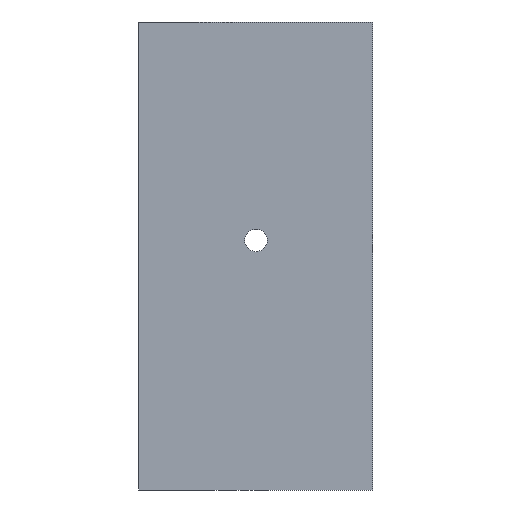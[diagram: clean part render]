
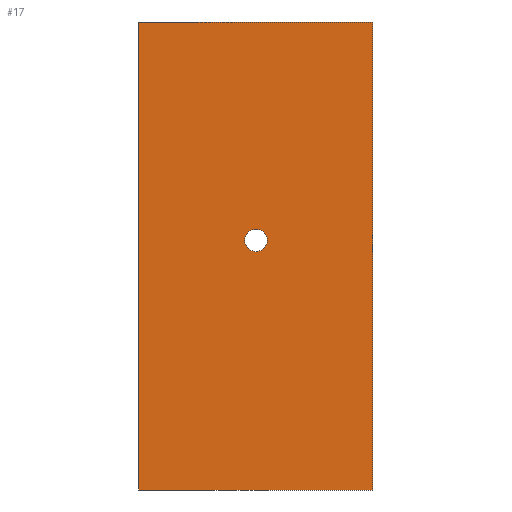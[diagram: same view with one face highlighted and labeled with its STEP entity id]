
A CAD part, left-side view. The second image highlights one B-rep face of the part: STEP entity #17.
In plain terms, the highlighted planar face has unit normal (-1, 0, 0).
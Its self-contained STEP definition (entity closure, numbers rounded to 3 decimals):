
#17 = ADVANCED_FACE('',(#18,#137),#32,.F.);
#18 = FACE_BOUND('',#19,.F.);
#19 = EDGE_LOOP('',(#20,#55,#83,#111));
#20 = ORIENTED_EDGE('',*,*,#21,.F.);
#21 = EDGE_CURVE('',#22,#24,#26,.T.);
#22 = VERTEX_POINT('',#23);
#23 = CARTESIAN_POINT('',(0.,-22.5,0.));
#24 = VERTEX_POINT('',#25);
#25 = CARTESIAN_POINT('',(0.,-22.5,90.));
#26 = SURFACE_CURVE('',#27,(#31,#43),.PCURVE_S1.);
#27 = LINE('',#28,#29);
#28 = CARTESIAN_POINT('',(0.,-22.5,0.));
#29 = VECTOR('',#30,1.);
#30 = DIRECTION('',(0.,0.,1.));
#31 = PCURVE('',#32,#37);
#32 = PLANE('',#33);
#33 = AXIS2_PLACEMENT_3D('',#34,#35,#36);
#34 = CARTESIAN_POINT('',(0.,-22.5,0.));
#35 = DIRECTION('',(1.,0.,0.));
#36 = DIRECTION('',(0.,0.,1.));
#37 = DEFINITIONAL_REPRESENTATION('',(#38),#42);
#38 = LINE('',#39,#40);
#39 = CARTESIAN_POINT('',(0.,0.));
#40 = VECTOR('',#41,1.);
#41 = DIRECTION('',(1.,0.));
#42 = ( GEOMETRIC_REPRESENTATION_CONTEXT(2) 
PARAMETRIC_REPRESENTATION_CONTEXT() REPRESENTATION_CONTEXT('2D SPACE',''
  ) );
#43 = PCURVE('',#44,#49);
#44 = PLANE('',#45);
#45 = AXIS2_PLACEMENT_3D('',#46,#47,#48);
#46 = CARTESIAN_POINT('',(0.,-22.5,0.));
#47 = DIRECTION('',(0.,1.,0.));
#48 = DIRECTION('',(0.,0.,1.));
#49 = DEFINITIONAL_REPRESENTATION('',(#50),#54);
#50 = LINE('',#51,#52);
#51 = CARTESIAN_POINT('',(0.,0.));
#52 = VECTOR('',#53,1.);
#53 = DIRECTION('',(1.,0.));
#54 = ( GEOMETRIC_REPRESENTATION_CONTEXT(2) 
PARAMETRIC_REPRESENTATION_CONTEXT() REPRESENTATION_CONTEXT('2D SPACE',''
  ) );
#55 = ORIENTED_EDGE('',*,*,#56,.T.);
#56 = EDGE_CURVE('',#22,#57,#59,.T.);
#57 = VERTEX_POINT('',#58);
#58 = CARTESIAN_POINT('',(0.,22.5,0.));
#59 = SURFACE_CURVE('',#60,(#64,#71),.PCURVE_S1.);
#60 = LINE('',#61,#62);
#61 = CARTESIAN_POINT('',(0.,-22.5,0.));
#62 = VECTOR('',#63,1.);
#63 = DIRECTION('',(0.,1.,0.));
#64 = PCURVE('',#32,#65);
#65 = DEFINITIONAL_REPRESENTATION('',(#66),#70);
#66 = LINE('',#67,#68);
#67 = CARTESIAN_POINT('',(0.,0.));
#68 = VECTOR('',#69,1.);
#69 = DIRECTION('',(0.,-1.));
#70 = ( GEOMETRIC_REPRESENTATION_CONTEXT(2) 
PARAMETRIC_REPRESENTATION_CONTEXT() REPRESENTATION_CONTEXT('2D SPACE',''
  ) );
#71 = PCURVE('',#72,#77);
#72 = PLANE('',#73);
#73 = AXIS2_PLACEMENT_3D('',#74,#75,#76);
#74 = CARTESIAN_POINT('',(0.,-22.5,0.));
#75 = DIRECTION('',(0.,0.,1.));
#76 = DIRECTION('',(1.,0.,0.));
#77 = DEFINITIONAL_REPRESENTATION('',(#78),#82);
#78 = LINE('',#79,#80);
#79 = CARTESIAN_POINT('',(0.,0.));
#80 = VECTOR('',#81,1.);
#81 = DIRECTION('',(0.,1.));
#82 = ( GEOMETRIC_REPRESENTATION_CONTEXT(2) 
PARAMETRIC_REPRESENTATION_CONTEXT() REPRESENTATION_CONTEXT('2D SPACE',''
  ) );
#83 = ORIENTED_EDGE('',*,*,#84,.F.);
#84 = EDGE_CURVE('',#85,#57,#87,.T.);
#85 = VERTEX_POINT('',#86);
#86 = CARTESIAN_POINT('',(0.,22.5,90.));
#87 = SURFACE_CURVE('',#88,(#92,#99),.PCURVE_S1.);
#88 = LINE('',#89,#90);
#89 = CARTESIAN_POINT('',(0.,22.5,90.));
#90 = VECTOR('',#91,1.);
#91 = DIRECTION('',(0.,0.,-1.));
#92 = PCURVE('',#32,#93);
#93 = DEFINITIONAL_REPRESENTATION('',(#94),#98);
#94 = LINE('',#95,#96);
#95 = CARTESIAN_POINT('',(90.,-45.));
#96 = VECTOR('',#97,1.);
#97 = DIRECTION('',(-1.,0.));
#98 = ( GEOMETRIC_REPRESENTATION_CONTEXT(2) 
PARAMETRIC_REPRESENTATION_CONTEXT() REPRESENTATION_CONTEXT('2D SPACE',''
  ) );
#99 = PCURVE('',#100,#105);
#100 = PLANE('',#101);
#101 = AXIS2_PLACEMENT_3D('',#102,#103,#104);
#102 = CARTESIAN_POINT('',(0.,22.5,0.));
#103 = DIRECTION('',(0.,1.,0.));
#104 = DIRECTION('',(0.,0.,1.));
#105 = DEFINITIONAL_REPRESENTATION('',(#106),#110);
#106 = LINE('',#107,#108);
#107 = CARTESIAN_POINT('',(90.,0.));
#108 = VECTOR('',#109,1.);
#109 = DIRECTION('',(-1.,0.));
#110 = ( GEOMETRIC_REPRESENTATION_CONTEXT(2) 
PARAMETRIC_REPRESENTATION_CONTEXT() REPRESENTATION_CONTEXT('2D SPACE',''
  ) );
#111 = ORIENTED_EDGE('',*,*,#112,.F.);
#112 = EDGE_CURVE('',#24,#85,#113,.T.);
#113 = SURFACE_CURVE('',#114,(#118,#125),.PCURVE_S1.);
#114 = LINE('',#115,#116);
#115 = CARTESIAN_POINT('',(0.,-22.5,90.));
#116 = VECTOR('',#117,1.);
#117 = DIRECTION('',(0.,1.,0.));
#118 = PCURVE('',#32,#119);
#119 = DEFINITIONAL_REPRESENTATION('',(#120),#124);
#120 = LINE('',#121,#122);
#121 = CARTESIAN_POINT('',(90.,0.));
#122 = VECTOR('',#123,1.);
#123 = DIRECTION('',(0.,-1.));
#124 = ( GEOMETRIC_REPRESENTATION_CONTEXT(2) 
PARAMETRIC_REPRESENTATION_CONTEXT() REPRESENTATION_CONTEXT('2D SPACE',''
  ) );
#125 = PCURVE('',#126,#131);
#126 = PLANE('',#127);
#127 = AXIS2_PLACEMENT_3D('',#128,#129,#130);
#128 = CARTESIAN_POINT('',(0.,-22.5,90.));
#129 = DIRECTION('',(0.,0.,1.));
#130 = DIRECTION('',(1.,0.,0.));
#131 = DEFINITIONAL_REPRESENTATION('',(#132),#136);
#132 = LINE('',#133,#134);
#133 = CARTESIAN_POINT('',(0.,0.));
#134 = VECTOR('',#135,1.);
#135 = DIRECTION('',(0.,1.));
#136 = ( GEOMETRIC_REPRESENTATION_CONTEXT(2) 
PARAMETRIC_REPRESENTATION_CONTEXT() REPRESENTATION_CONTEXT('2D SPACE',''
  ) );
#137 = FACE_BOUND('',#138,.F.);
#138 = EDGE_LOOP('',(#139));
#139 = ORIENTED_EDGE('',*,*,#140,.F.);
#140 = EDGE_CURVE('',#141,#141,#143,.T.);
#141 = VERTEX_POINT('',#142);
#142 = CARTESIAN_POINT('',(-0.,2.15,48.));
#143 = SURFACE_CURVE('',#144,(#149,#156),.PCURVE_S1.);
#144 = CIRCLE('',#145,2.15);
#145 = AXIS2_PLACEMENT_3D('',#146,#147,#148);
#146 = CARTESIAN_POINT('',(0.,0.,48.));
#147 = DIRECTION('',(1.,0.,0.));
#148 = DIRECTION('',(0.,1.,0.));
#149 = PCURVE('',#32,#150);
#150 = DEFINITIONAL_REPRESENTATION('',(#151),#155);
#151 = CIRCLE('',#152,2.15);
#152 = AXIS2_PLACEMENT_2D('',#153,#154);
#153 = CARTESIAN_POINT('',(48.,-22.5));
#154 = DIRECTION('',(0.,-1.));
#155 = ( GEOMETRIC_REPRESENTATION_CONTEXT(2) 
PARAMETRIC_REPRESENTATION_CONTEXT() REPRESENTATION_CONTEXT('2D SPACE',''
  ) );
#156 = PCURVE('',#157,#162);
#157 = CYLINDRICAL_SURFACE('',#158,2.15);
#158 = AXIS2_PLACEMENT_3D('',#159,#160,#161);
#159 = CARTESIAN_POINT('',(0.,0.,48.));
#160 = DIRECTION('',(1.,0.,0.));
#161 = DIRECTION('',(0.,1.,0.));
#162 = DEFINITIONAL_REPRESENTATION('',(#163),#167);
#163 = LINE('',#164,#165);
#164 = CARTESIAN_POINT('',(0.,0.));
#165 = VECTOR('',#166,1.);
#166 = DIRECTION('',(1.,0.));
#167 = ( GEOMETRIC_REPRESENTATION_CONTEXT(2) 
PARAMETRIC_REPRESENTATION_CONTEXT() REPRESENTATION_CONTEXT('2D SPACE',''
  ) );
